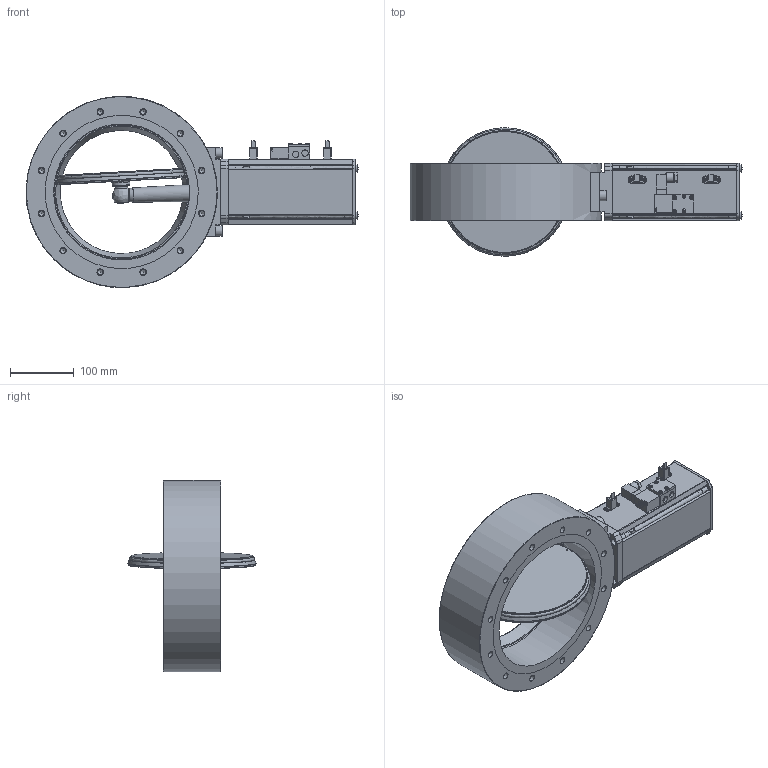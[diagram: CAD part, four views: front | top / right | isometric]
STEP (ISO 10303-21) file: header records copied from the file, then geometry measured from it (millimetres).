
FILE_DESCRIPTION((''),'2;1');
FILE_NAME('O:\MT\MT\Systeme\Cad\Datenexporte\www_vat_ch\234550.stp','2004-06-18T13:19:16',('User'),('SDRC'),'I-DEAS Master Series 9','UNIX','Yes');
FILE_SCHEMA(('CONFIG_CONTROL_DESIGN'));
Length unit declared in the file: millimetre
Assembly tree (52 placements, depth 0):
Bounding box: 520.44 x 201.05 x 299.57 mm (x, y, z)
Volume: 4699185.2 mm3; surface area: 649871.6 mm2
Topology: 63 solids, 63 shells, 1599 faces, 3786 edges, 2453 vertices
Faces by surface type: bspline 1599
Entity records: 37212 total; most frequent: CARTESIAN_POINT 17671, ORIENTED_EDGE 4702, EDGE_CURVE 2351, VERTEX_POINT 1549, EDGE_LOOP 1280, QUASI_UNIFORM_CURVE 1039, FACE_OUTER_BOUND 1021, ADVANCED_FACE 1021
